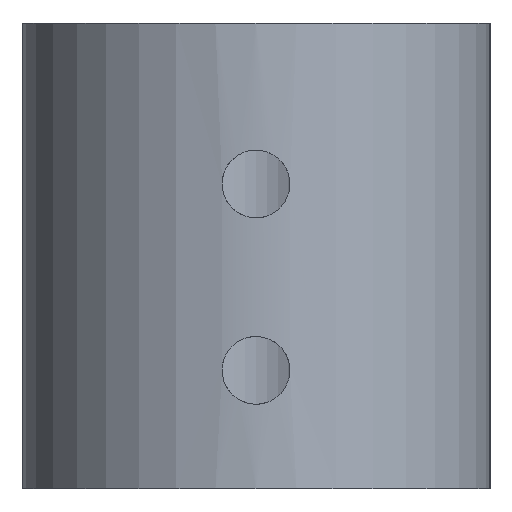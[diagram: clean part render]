
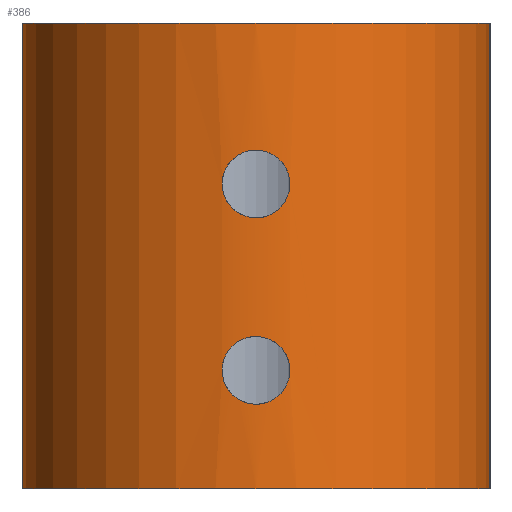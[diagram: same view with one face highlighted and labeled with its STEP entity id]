
A CAD part, left-side view. The second image highlights one B-rep face of the part: STEP entity #386.
In plain terms, the highlighted cylindrical face has radius 11.05 mm (diameter 22.1 mm), a partial arc.
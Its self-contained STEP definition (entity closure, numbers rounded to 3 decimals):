
#27=FACE_BOUND('',#154,.T.);
#28=FACE_BOUND('',#155,.T.);
#47=LINE('',#1018,#68);
#51=LINE('',#1028,#72);
#68=VECTOR('',#509,10.);
#72=VECTOR('',#519,10.);
#74=B_SPLINE_CURVE_WITH_KNOTS('',3,(#539,#540,#541,#542,#543,#544,#545,
#546,#547,#548,#549,#550,#551,#552,#553,#554,#555,#556,#557,#558,#559,#560,
#561,#562,#563,#564,#565,#566,#567,#568,#569,#570,#571,#572),
 .UNSPECIFIED.,.T.,.F.,(4,2,2,2,2,2,2,2,2,2,2,2,2,2,2,2,4),(0.,0.06,
0.121,0.181,0.241,0.302,
0.362,0.423,0.483,0.543,
0.604,0.664,0.724,0.785,
0.845,0.905,0.966),.UNSPECIFIED.);
#76=B_SPLINE_CURVE_WITH_KNOTS('',3,(#611,#612,#613,#614,#615,#616,#617,
#618,#619,#620,#621,#622,#623,#624,#625,#626,#627,#628,#629,#630,#631,#632,
#633,#634,#635,#636,#637,#638,#639,#640,#641,#642,#643,#644),
 .UNSPECIFIED.,.T.,.F.,(4,2,2,2,2,2,2,2,2,2,2,2,2,2,2,2,4),(0.,0.06,
0.121,0.181,0.241,0.302,
0.362,0.423,0.483,0.543,
0.604,0.664,0.724,0.785,
0.845,0.905,0.966),.UNSPECIFIED.);
#102=CYLINDRICAL_SURFACE('',#433,11.05);
#121=FACE_OUTER_BOUND('',#153,.T.);
#153=EDGE_LOOP('',(#348,#349,#350,#351));
#154=EDGE_LOOP('',(#352));
#155=EDGE_LOOP('',(#353));
#167=CIRCLE('',#421,11.05);
#173=CIRCLE('',#434,11.05);
#177=VERTEX_POINT('',#538);
#179=VERTEX_POINT('',#610);
#197=VERTEX_POINT('',#994);
#198=VERTEX_POINT('',#995);
#204=VERTEX_POINT('',#1017);
#207=VERTEX_POINT('',#1027);
#211=EDGE_CURVE('',#177,#177,#74,.T.);
#214=EDGE_CURVE('',#179,#179,#76,.T.);
#239=EDGE_CURVE('',#197,#198,#167,.T.);
#251=EDGE_CURVE('',#204,#198,#47,.T.);
#256=EDGE_CURVE('',#197,#207,#51,.T.);
#258=EDGE_CURVE('',#204,#207,#173,.T.);
#348=ORIENTED_EDGE('',*,*,#256,.F.);
#349=ORIENTED_EDGE('',*,*,#239,.T.);
#350=ORIENTED_EDGE('',*,*,#251,.F.);
#351=ORIENTED_EDGE('',*,*,#258,.T.);
#352=ORIENTED_EDGE('',*,*,#211,.F.);
#353=ORIENTED_EDGE('',*,*,#214,.F.);
#386=ADVANCED_FACE('',(#121,#27,#28),#102,.T.);
#421=AXIS2_PLACEMENT_3D('',#996,#484,#485);
#433=AXIS2_PLACEMENT_3D('',#1030,#521,#522);
#434=AXIS2_PLACEMENT_3D('',#1031,#523,#524);
#484=DIRECTION('center_axis',(0.,0.,-1.));
#485=DIRECTION('ref_axis',(0.,1.,0.));
#509=DIRECTION('',(0.,0.,1.));
#519=DIRECTION('',(0.,0.,-1.));
#521=DIRECTION('center_axis',(0.,0.,1.));
#522=DIRECTION('ref_axis',(0.,1.,0.));
#523=DIRECTION('center_axis',(0.,0.,1.));
#524=DIRECTION('ref_axis',(0.,1.,0.));
#538=CARTESIAN_POINT('',(-36.018,-348.4,282.381));
#539=CARTESIAN_POINT('Ctrl Pts',(-36.018,-348.4,282.381));
#540=CARTESIAN_POINT('Ctrl Pts',(-36.018,-348.4,282.18));
#541=CARTESIAN_POINT('Ctrl Pts',(-36.025,-348.44,281.965));
#542=CARTESIAN_POINT('Ctrl Pts',(-36.047,-348.604,281.571));
#543=CARTESIAN_POINT('Ctrl Pts',(-36.062,-348.727,281.392));
#544=CARTESIAN_POINT('Ctrl Pts',(-36.091,-349.011,281.108));
#545=CARTESIAN_POINT('Ctrl Pts',(-36.107,-349.19,280.985));
#546=CARTESIAN_POINT('Ctrl Pts',(-36.129,-349.584,280.821));
#547=CARTESIAN_POINT('Ctrl Pts',(-36.135,-349.799,280.781));
#548=CARTESIAN_POINT('Ctrl Pts',(-36.135,-350.201,280.781));
#549=CARTESIAN_POINT('Ctrl Pts',(-36.129,-350.416,280.821));
#550=CARTESIAN_POINT('Ctrl Pts',(-36.107,-350.81,280.985));
#551=CARTESIAN_POINT('Ctrl Pts',(-36.091,-350.989,281.108));
#552=CARTESIAN_POINT('Ctrl Pts',(-36.062,-351.273,281.392));
#553=CARTESIAN_POINT('Ctrl Pts',(-36.047,-351.396,281.571));
#554=CARTESIAN_POINT('Ctrl Pts',(-36.025,-351.56,281.965));
#555=CARTESIAN_POINT('Ctrl Pts',(-36.018,-351.6,282.18));
#556=CARTESIAN_POINT('Ctrl Pts',(-36.018,-351.6,282.582));
#557=CARTESIAN_POINT('Ctrl Pts',(-36.025,-351.56,282.797));
#558=CARTESIAN_POINT('Ctrl Pts',(-36.047,-351.396,283.191));
#559=CARTESIAN_POINT('Ctrl Pts',(-36.062,-351.273,283.37));
#560=CARTESIAN_POINT('Ctrl Pts',(-36.091,-350.989,283.654));
#561=CARTESIAN_POINT('Ctrl Pts',(-36.107,-350.81,283.777));
#562=CARTESIAN_POINT('Ctrl Pts',(-36.129,-350.416,283.941));
#563=CARTESIAN_POINT('Ctrl Pts',(-36.135,-350.201,283.981));
#564=CARTESIAN_POINT('Ctrl Pts',(-36.135,-349.799,283.981));
#565=CARTESIAN_POINT('Ctrl Pts',(-36.129,-349.584,283.941));
#566=CARTESIAN_POINT('Ctrl Pts',(-36.107,-349.19,283.777));
#567=CARTESIAN_POINT('Ctrl Pts',(-36.091,-349.011,283.654));
#568=CARTESIAN_POINT('Ctrl Pts',(-36.062,-348.727,283.37));
#569=CARTESIAN_POINT('Ctrl Pts',(-36.047,-348.604,283.191));
#570=CARTESIAN_POINT('Ctrl Pts',(-36.025,-348.44,282.797));
#571=CARTESIAN_POINT('Ctrl Pts',(-36.018,-348.4,282.582));
#572=CARTESIAN_POINT('Ctrl Pts',(-36.018,-348.4,282.381));
#610=CARTESIAN_POINT('',(-36.018,-348.4,291.181));
#611=CARTESIAN_POINT('Ctrl Pts',(-36.018,-348.4,291.181));
#612=CARTESIAN_POINT('Ctrl Pts',(-36.018,-348.4,290.98));
#613=CARTESIAN_POINT('Ctrl Pts',(-36.025,-348.44,290.765));
#614=CARTESIAN_POINT('Ctrl Pts',(-36.047,-348.604,290.371));
#615=CARTESIAN_POINT('Ctrl Pts',(-36.062,-348.727,290.192));
#616=CARTESIAN_POINT('Ctrl Pts',(-36.091,-349.011,289.908));
#617=CARTESIAN_POINT('Ctrl Pts',(-36.107,-349.19,289.785));
#618=CARTESIAN_POINT('Ctrl Pts',(-36.129,-349.584,289.621));
#619=CARTESIAN_POINT('Ctrl Pts',(-36.135,-349.799,289.581));
#620=CARTESIAN_POINT('Ctrl Pts',(-36.135,-350.201,289.581));
#621=CARTESIAN_POINT('Ctrl Pts',(-36.129,-350.416,289.621));
#622=CARTESIAN_POINT('Ctrl Pts',(-36.107,-350.81,289.785));
#623=CARTESIAN_POINT('Ctrl Pts',(-36.091,-350.989,289.908));
#624=CARTESIAN_POINT('Ctrl Pts',(-36.062,-351.273,290.192));
#625=CARTESIAN_POINT('Ctrl Pts',(-36.047,-351.396,290.371));
#626=CARTESIAN_POINT('Ctrl Pts',(-36.025,-351.56,290.765));
#627=CARTESIAN_POINT('Ctrl Pts',(-36.018,-351.6,290.98));
#628=CARTESIAN_POINT('Ctrl Pts',(-36.018,-351.6,291.382));
#629=CARTESIAN_POINT('Ctrl Pts',(-36.025,-351.56,291.597));
#630=CARTESIAN_POINT('Ctrl Pts',(-36.047,-351.396,291.991));
#631=CARTESIAN_POINT('Ctrl Pts',(-36.062,-351.273,292.17));
#632=CARTESIAN_POINT('Ctrl Pts',(-36.091,-350.989,292.454));
#633=CARTESIAN_POINT('Ctrl Pts',(-36.107,-350.81,292.577));
#634=CARTESIAN_POINT('Ctrl Pts',(-36.129,-350.416,292.741));
#635=CARTESIAN_POINT('Ctrl Pts',(-36.135,-350.201,292.781));
#636=CARTESIAN_POINT('Ctrl Pts',(-36.135,-349.799,292.781));
#637=CARTESIAN_POINT('Ctrl Pts',(-36.129,-349.584,292.741));
#638=CARTESIAN_POINT('Ctrl Pts',(-36.107,-349.19,292.577));
#639=CARTESIAN_POINT('Ctrl Pts',(-36.091,-349.011,292.454));
#640=CARTESIAN_POINT('Ctrl Pts',(-36.062,-348.727,292.17));
#641=CARTESIAN_POINT('Ctrl Pts',(-36.047,-348.604,291.991));
#642=CARTESIAN_POINT('Ctrl Pts',(-36.025,-348.44,291.597));
#643=CARTESIAN_POINT('Ctrl Pts',(-36.018,-348.4,291.382));
#644=CARTESIAN_POINT('Ctrl Pts',(-36.018,-348.4,291.181));
#994=CARTESIAN_POINT('',(-25.085,-361.05,298.781));
#995=CARTESIAN_POINT('',(-25.085,-338.95,298.781));
#996=CARTESIAN_POINT('Origin',(-25.085,-350.,298.781));
#1017=CARTESIAN_POINT('',(-25.085,-338.95,276.781));
#1018=CARTESIAN_POINT('',(-25.085,-338.95,296.781));
#1027=CARTESIAN_POINT('',(-25.085,-361.05,276.781));
#1028=CARTESIAN_POINT('',(-25.085,-361.05,296.781));
#1030=CARTESIAN_POINT('Origin',(-25.085,-350.,296.781));
#1031=CARTESIAN_POINT('Origin',(-25.085,-350.,276.781));
